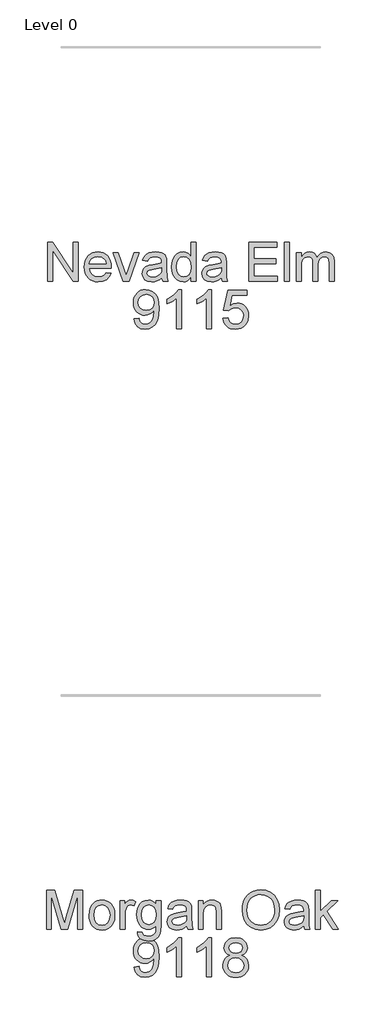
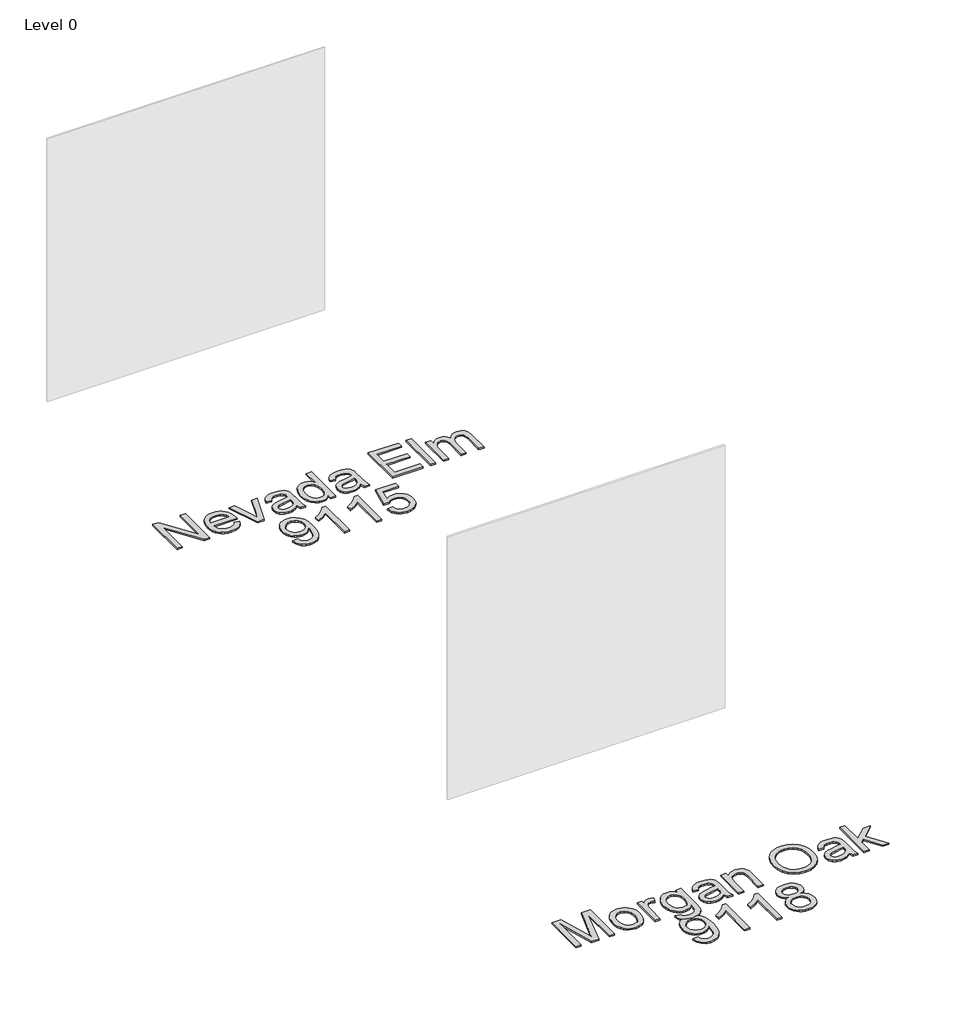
# One storey, part 2 of 10: 2 proxies.
"""IFC4 building model written with IfcOpenShell, lengths in millimetres."""

from ifc_helpers import new_model, si_unit, origin, origin_with_axes, place, context, project, spatial, polyline, outline, extrude, element, save

model = new_model("IFC4")

# Units and contexts
model_context = context("Model", 3, world=origin())
ifc_project = project(units=[si_unit("LENGTHUNIT", "METRE", prefix="MILLI")], contexts=[model_context])

# Site, building, storey
site = spatial("IfcSite", under=ifc_project)
building = spatial("IfcBuilding", under=site)
storey = spatial("IfcBuildingStorey", under=building, Name="Level 0", Elevation=0.0)

# Proxies
placement = place(None, origin())
element("IfcBuildingElementProxy", 1, Name="300mm Arial", ObjectType="300mm Arial", at=placement, inside=storey, context=model_context, shape_type="SweptSolid", body=[
    extrude(outline(polyline([(-5554.892653, -17002.860494), (-5554.892653, -16701.4915635), (-5514.5727864, -16701.4915635), (-5357.1192924, -16940.2469784), (-5357.1192924, -16701.4915635), (-5319.4481761, -16701.4915635), (-5319.4481761, -17002.860494), (-5359.7680428, -17002.860494), (-5517.2215367, -16764.0315027), (-5517.2215367, -17002.860494), (-5554.892653, -17002.860494)])), origin_with_axes(), (0.0, 0.0, 1.0), 10.0),
    extrude(outline(polyline([(-5103.2807158, -16936.9360404), (-5066.3453634, -16941.64493), (-5079.6534946, -16969.4752029), (-5100.8894828, -16990.2789297), (-5129.5750814, -17003.2467701), (-5165.2320437, -17007.5693835), (-5188.606346, -17005.7046817), (-5209.4330655, -17000.1105761), (-5227.7122021, -16990.7870668), (-5243.4437559, -16977.7341537), (-5256.094298, -16961.3151204), (-5265.1303995, -16941.8932503), (-5270.5520604, -16919.4685435), (-5272.3592807, -16894.0409998), (-5270.5336663, -16867.7512327), (-5265.0568231, -16844.5792656), (-5255.9287511, -16824.5250983), (-5243.1494503, -16807.5887309), (-5227.4592832, -16794.133447), (-5209.5986124, -16784.5225298), (-5189.5674377, -16778.7559796), (-5167.3657593, -16776.8337961), (-5145.8791515, -16778.751381), (-5126.4480844, -16784.5041357), (-5109.0725579, -16794.0920602), (-5093.7525721, -16807.5151545), (-5081.2468835, -16824.4147337), (-5072.3142488, -16844.4321128), (-5066.954668, -16867.5672917), (-5065.1681411, -16893.8202706), (-5065.3888702, -16903.9738137), (-5234.6881644, -16903.9738137), (-5228.1674561, -16932.1719686), (-5213.0199149, -16952.902119), (-5191.1585273, -16965.6492302), (-5164.4962797, -16969.8982672), (-5144.446711, -16967.9300985), (-5127.5609274, -16962.0255925), (-5113.838929, -16951.8168672), (-5103.2807158, -16936.9360404)]), holes=[polyline([(-5234.6881644, -16866.3026974), (-5102.8392574, -16866.3026974), (-5107.934423, -16846.4002814), (-5117.9224192, -16832.1632482), (-5139.8849743, -16818.9194964), (-5167.5129121, -16814.5049125), (-5192.9059668, -16818.0273826), (-5213.9028317, -16828.5947929), (-5228.4985499, -16845.0667092), (-5234.6881644, -16866.3026974)])]), origin_with_axes(), (0.0, 0.0, 1.0), 10.0),
    extrude(outline(polyline([(-4973.1976423, -17002.860494), (-5051.0414724, -16781.5426857), (-5011.1630642, -16781.5426857), (-4964.0005924, -16914.1273567), (-4949.8003474, -16958.7146546), (-4935.8944079, -16916.6289543), (-4888.4376306, -16781.5426857), (-4848.5592223, -16781.5426857), (-4925.4465593, -17002.860494), (-4973.1976423, -17002.860494)])), origin_with_axes(), (0.0, 0.0, 1.0), 10.0),
    extrude(outline(polyline([(-4674.3303094, -16974.6071568), (-4692.328936, -16990.0398064), (-4710.8609915, -17000.1381672), (-4730.3495402, -17005.7115794), (-4751.2176464, -17007.5693835), (-4782.6991481, -17003.0996173), (-4805.921699, -16989.6903186), (-4820.2415057, -16969.3280501), (-4825.0147746, -16943.9993748), (-4823.2121528, -16928.3827841), (-4817.8042875, -16914.2009331), (-4809.4625633, -16902.0608273), (-4798.8583647, -16892.5694718), (-4772.4812257, -16880.2086368), (-4739.8868809, -16874.5432541), (-4701.369636, -16868.5835657), (-4674.5510386, -16861.5938078), (-4674.3303094, -16853.2060983), (-4676.9238774, -16836.3938912), (-4684.7045816, -16825.3942195), (-4702.1054, -16817.2272392), (-4726.3488235, -16814.5049125), (-4748.7896252, -16816.3167313), (-4764.4613982, -16821.7521878), (-4775.1483702, -16831.8045633), (-4782.6347688, -16847.4671392), (-4820.3058851, -16842.7582497), (-4813.7667826, -16822.156858), (-4804.0087127, -16805.9700502), (-4790.1211674, -16793.590821), (-4771.1936387, -16784.4121652), (-4748.0446642, -16778.7283884), (-4721.4927812, -16776.8337961), (-4696.02615, -16778.5076592), (-4675.8386256, -16783.5292485), (-4660.617508, -16791.0800264), (-4650.0500977, -16800.3414556), (-4643.0419457, -16811.7917827), (-4638.498603, -16825.9092543), (-4636.6591931, -16858.8714811), (-4636.6591931, -16905.7396473), (-4634.7462067, -16971.1858542), (-4627.241414, -17002.860494), (-4664.9125303, -17002.860494), (-4674.3303094, -16974.6071568)]), holes=[polyline([(-4674.3303094, -16899.2649241), (-4735.104415, -16910.8164188), (-4767.5148188, -16916.9232599), (-4782.1933104, -16926.8560738), (-4787.3436583, -16941.3506244), (-4784.5385581, -16952.5526311), (-4776.1232574, -16961.7312869), (-4762.2816974, -16967.8565221), (-4743.1978189, -16969.8982672), (-4722.9643091, -16967.64499), (-4705.0852442, -16960.8851583), (-4690.5906936, -16950.9247533), (-4680.5107269, -16939.069756), (-4676.0409607, -16926.8560738), (-4674.5510386, -16909.933502), (-4674.3303094, -16899.2649241)])]), origin_with_axes(), (0.0, 0.0, 1.0), 10.0),
    extrude(outline(polyline([(-4448.3036115, -17002.860494), (-4448.3036115, -16967.3230932), (-4459.5745962, -16984.9308452), (-4473.2276167, -16997.507811), (-4489.2626732, -17005.0539904), (-4507.6797656, -17007.5693835), (-4532.0335536, -17003.9273518), (-4554.3272025, -16993.0012565), (-4573.1995489, -16975.5544529), (-4587.2894293, -16952.350296), (-4596.0634149, -16924.3268851), (-4598.9880768, -16892.422319), (-4596.2933411, -16860.9132261), (-4588.2091343, -16832.4575538), (-4574.7446533, -16808.6739828), (-4555.9090951, -16791.181194), (-4533.1280026, -16780.4206456), (-4507.8269184, -16776.8337961), (-4489.3960304, -16779.3997731), (-4473.098858, -16787.0977038), (-4459.2848891, -16798.8975188), (-4448.3036115, -16813.7691485), (-4448.3036115, -16701.4915635), (-4410.6324952, -16701.4915635), (-4410.6324952, -17002.860494), (-4448.3036115, -17002.860494)]), holes=[polyline([(-4561.3169605, -16892.2751662), (-4557.0679234, -16926.350236), (-4544.3208123, -16950.5844625), (-4525.7979538, -16965.069816), (-4504.2216748, -16969.8982672), (-4482.6545928, -16965.2905452), (-4464.6007839, -16951.4673793), (-4452.3779046, -16928.1712519), (-4448.3036115, -16895.1446458), (-4452.451481, -16859.037028), (-4464.8950895, -16834.0026582), (-4483.4087509, -16819.3793489), (-4505.7667792, -16814.5049125), (-4527.5637874, -16819.1862108), (-4545.4244583, -16833.230106), (-4557.3438349, -16857.3539678), (-4561.3169605, -16892.2751662)])]), origin_with_axes(), (0.0, 0.0, 1.0), 10.0),
    extrude(outline(polyline([(-4212.8591346, -16974.6071568), (-4230.8577612, -16990.0398064), (-4249.3898167, -17000.1381672), (-4268.8783654, -17005.7115794), (-4289.7464716, -17007.5693835), (-4321.2279734, -17003.0996173), (-4344.4505243, -16989.6903186), (-4358.770331, -16969.3280501), (-4363.5435998, -16943.9993748), (-4361.7409781, -16928.3827841), (-4356.3331127, -16914.2009331), (-4347.9913885, -16902.0608273), (-4337.38719, -16892.5694718), (-4311.0100509, -16880.2086368), (-4278.4157062, -16874.5432541), (-4239.8984613, -16868.5835657), (-4213.0798638, -16861.5938078), (-4212.8591346, -16853.2060983), (-4215.4527027, -16836.3938912), (-4223.2334069, -16825.3942195), (-4240.6342253, -16817.2272392), (-4264.8776487, -16814.5049125), (-4287.3184504, -16816.3167313), (-4302.9902234, -16821.7521878), (-4313.6771954, -16831.8045633), (-4321.163594, -16847.4671392), (-4358.8347103, -16842.7582497), (-4352.2956078, -16822.156858), (-4342.5375379, -16805.9700502), (-4328.6499926, -16793.590821), (-4309.722464, -16784.4121652), (-4286.5734894, -16778.7283884), (-4260.0216064, -16776.8337961), (-4234.5549753, -16778.5076592), (-4214.3674508, -16783.5292485), (-4199.1463333, -16791.0800264), (-4188.5789229, -16800.3414556), (-4181.5707709, -16811.7917827), (-4177.0274283, -16825.9092543), (-4175.1880183, -16858.8714811), (-4175.1880183, -16905.7396473), (-4173.2750319, -16971.1858542), (-4165.7702392, -17002.860494), (-4203.4413555, -17002.860494), (-4212.8591346, -16974.6071568)]), holes=[polyline([(-4212.8591346, -16899.2649241), (-4273.6332402, -16910.8164188), (-4306.043644, -16916.9232599), (-4320.7221356, -16926.8560738), (-4325.8724835, -16941.3506244), (-4323.0673833, -16952.5526311), (-4314.6520827, -16961.7312869), (-4300.8105226, -16967.8565221), (-4281.7266441, -16969.8982672), (-4261.4931344, -16967.64499), (-4243.6140694, -16960.8851583), (-4229.1195188, -16950.9247533), (-4219.0395521, -16939.069756), (-4214.5697859, -16926.8560738), (-4213.0798638, -16909.933502), (-4212.8591346, -16899.2649241)])]), origin_with_axes(), (0.0, 0.0, 1.0), 10.0),
    extrude(outline(polyline([(-4000.9591054, -17002.860494), (-4000.9591054, -16701.4915635), (-3784.3501866, -16701.4915635), (-3784.3501866, -16739.1626798), (-3963.2879891, -16739.1626798), (-3963.2879891, -16828.6315811), (-3793.7679657, -16828.6315811), (-3793.7679657, -16866.3026974), (-3963.2879891, -16866.3026974), (-3963.2879891, -16965.1893777), (-3779.6412971, -16965.1893777), (-3779.6412971, -17002.860494), (-4000.9591054, -17002.860494)])), origin_with_axes(), (0.0, 0.0, 1.0), 10.0),
    extrude(outline(polyline([(-3727.8435122, -17002.860494), (-3727.8435122, -16701.4915635), (-3690.1723959, -16701.4915635), (-3690.1723959, -17002.860494), (-3727.8435122, -17002.860494)])), origin_with_axes(), (0.0, 0.0, 1.0), 10.0),
    extrude(outline(polyline([(-3633.6657214, -17002.860494), (-3633.6657214, -16781.5426857), (-3595.9946051, -16781.5426857), (-3595.9946051, -16817.9630032), (-3584.6638397, -16801.2335695), (-3570.0957127, -16788.1277734), (-3552.7868648, -16779.6572905), (-3533.2339367, -16776.8337961), (-3512.2830571, -16779.7124728), (-3495.489244, -16788.3485026), (-3482.944468, -16802.1716686), (-3474.7406995, -16820.6117536), (-3461.009504, -16801.4588972), (-3445.3469281, -16787.7782855), (-3427.7529717, -16779.5699185), (-3408.2276348, -16776.8337961), (-3379.9099182, -16781.3863358), (-3358.9682356, -16795.0439549), (-3346.0279864, -16818.1745354), (-3341.71457, -16851.1459592), (-3341.71457, -17002.860494), (-3379.3856864, -17002.860494), (-3379.3856864, -16867.332767), (-3382.8805653, -16835.8788564), (-3387.7917899, -16827.2060383), (-3395.5357059, -16820.3910244), (-3405.496111, -16815.9764404), (-3417.0568027, -16814.5049125), (-3437.4650563, -16818.2757029), (-3454.1025196, -16829.5880743), (-3465.1665706, -16849.2145787), (-3468.8545876, -16877.9277684), (-3468.8545876, -17002.860494), (-3506.5257039, -17002.860494), (-3506.5257039, -16863.1389122), (-3508.7054047, -16841.8385447), (-3515.2445072, -16826.6450183), (-3526.7500166, -16817.5399389), (-3543.8289382, -16814.5049125), (-3558.3418829, -16816.5282634), (-3571.7143934, -16822.5983163), (-3582.7508533, -16832.5679184), (-3590.255646, -16846.2899168), (-3594.5598653, -16865.3278101), (-3595.9946051, -16891.2450966), (-3595.9946051, -17002.860494), (-3633.6657214, -17002.860494)])), origin_with_axes(), (0.0, 0.0, 1.0), 10.0),
    extrude(outline(polyline([(-4888.5847834, -17293.4427149), (-4850.9136671, -17288.7338254), (-4844.4757321, -17310.1169663), (-4833.9910953, -17324.6758963), (-4819.7172739, -17333.0360146), (-4801.9117853, -17335.8227207), (-4785.9365097, -17334.029296), (-4771.4143679, -17328.6490218), (-4759.3478385, -17320.2705094), (-4750.7393998, -17309.4823699), (-4738.4153529, -17276.7408723), (-4732.9706994, -17233.0364913), (-4733.1914286, -17225.6788514), (-4746.2420424, -17241.6081418), (-4763.320964, -17254.2264942), (-4783.1957888, -17262.4486568), (-4804.6341121, -17265.1893777), (-4822.5292719, -17263.5155146), (-4838.9850934, -17258.4939254), (-4854.0015766, -17250.12461), (-4867.5787214, -17238.4075684), (-4878.8290127, -17223.9544045), (-4886.864935, -17207.3767221), (-4891.6864884, -17188.6745212), (-4893.2936729, -17167.8478018), (-4891.6083135, -17146.326705), (-4886.5522353, -17127.0129003), (-4878.1254384, -17109.9063875), (-4866.3279227, -17095.0071667), (-4851.9920212, -17082.9360387), (-4835.9500669, -17074.3138045), (-4818.2020599, -17069.1404639), (-4798.7480001, -17067.4160171), (-4770.6510128, -17071.3523544), (-4745.074017, -17083.1613665), (-4723.681679, -17102.254442), (-4708.1386647, -17128.0429699), (-4698.6749004, -17163.6907352), (-4695.5203123, -17212.3615232), (-4698.6657034, -17263.96617), (-4708.1018765, -17303.8537754), (-4723.7460584, -17333.8269609), (-4745.5154754, -17355.6883485), (-4772.4720286, -17369.0424649), (-4803.6776189, -17373.4938371), (-4835.8856876, -17368.2423216), (-4861.5822449, -17352.4877751), (-4879.5532804, -17327.2234791), (-4888.5847834, -17293.4427149)]), holes=[polyline([(-4733.1914286, -17166.964885), (-4737.2565246, -17141.4338745), (-4749.4518128, -17121.788976), (-4768.3793414, -17109.262594), (-4792.641159, -17105.0871334), (-4817.8042875, -17109.5844908), (-4837.9642208, -17123.0765629), (-4851.2079727, -17143.7239399), (-4855.6225566, -17169.6872117), (-4851.447096, -17192.964945), (-4838.920714, -17211.4418182), (-4819.2574214, -17223.4991506), (-4793.6712286, -17227.5182614), (-4769.6025491, -17223.4991506), (-4750.224365, -17211.4418182), (-4737.4496627, -17192.2843633), (-4733.1914286, -17166.964885)])]), origin_with_axes(), (0.0, 0.0, 1.0), 10.0),
    extrude(outline(polyline([(-4521.2913994, -17368.7849475), (-4558.9625157, -17368.7849475), (-4558.9625157, -17133.9290818), (-4594.6470692, -17159.3497277), (-4634.3047483, -17178.3692268), (-4634.3047483, -17142.7582497), (-4604.7178388, -17126.6634124), (-4579.0856608, -17107.5151545), (-4558.8797422, -17087.1528861), (-4545.5716111, -17067.4160171), (-4521.2913994, -17067.4160171), (-4521.2913994, -17368.7849475)])), origin_with_axes(), (0.0, 0.0, 1.0), 10.0),
    extrude(outline(polyline([(-4290.555812, -17368.7849475), (-4328.2269283, -17368.7849475), (-4328.2269283, -17133.9290818), (-4363.9114818, -17159.3497277), (-4403.5691609, -17178.3692268), (-4403.5691609, -17142.7582497), (-4373.9822515, -17126.6634124), (-4348.3500734, -17107.5151545), (-4328.1441549, -17087.1528861), (-4314.8360237, -17067.4160171), (-4290.555812, -17067.4160171), (-4290.555812, -17368.7849475)])), origin_with_axes(), (0.0, 0.0, 1.0), 10.0),
    extrude(outline(polyline([(-4201.0869108, -17288.7338254), (-4163.4157945, -17284.0249358), (-4156.499613, -17306.6404815), (-4144.4330835, -17322.8364863), (-4127.2713884, -17332.5761621), (-4105.06971, -17335.8227207), (-4078.0671716, -17331.3069693), (-4057.8336619, -17317.7597148), (-4045.1969153, -17296.7444558), (-4040.9846665, -17269.8246908), (-4044.9302009, -17244.4776213), (-4056.7668041, -17225.0902402), (-4076.5864466, -17212.7845875), (-4104.4810988, -17208.6827032), (-4122.755637, -17210.3197781), (-4137.5536902, -17215.2310027), (-4158.7069049, -17232.2271509), (-4196.3780212, -17227.5182614), (-4163.4157945, -17072.1249066), (-4017.4402188, -17072.1249066), (-4017.4402188, -17109.7960229), (-4132.9551653, -17109.7960229), (-4149.0683967, -17192.790201), (-4122.1578287, -17176.4562404), (-4093.9596738, -17171.0115869), (-4075.6138585, -17172.6992456), (-4058.7625639, -17177.7622215), (-4043.4057899, -17186.2005148), (-4029.5435364, -17198.0141254), (-4018.0679174, -17212.4810848), (-4009.8710467, -17228.8794248), (-4004.9529243, -17247.2091452), (-4003.3135502, -17267.470246), (-4009.2180562, -17305.1413624), (-4016.5986887, -17321.9351754), (-4026.9315743, -17337.3678251), (-4042.5849532, -17353.1729553), (-4060.8502942, -17364.4623341), (-4081.7275974, -17371.2359613), (-4105.2168628, -17373.4938371), (-4142.2165945, -17367.6904986), (-4157.8952653, -17360.4363255), (-4171.6931394, -17350.2804832), (-4183.1733569, -17337.7288093), (-4191.8990579, -17323.2871418), (-4201.0869108, -17288.7338254)])), origin_with_axes(), (0.0, 0.0, 1.0), 10.0),
])
element("IfcBuildingElementProxy", 2, Name="300mm Arial", ObjectType="300mm Arial", at=placement, inside=storey, context=model_context, shape_type="SweptSolid", body=[
    extrude(outline(polyline([(-5564.3104321, -22002.860494), (-5564.3104321, -21701.4915635), (-5499.4896246, -21701.4915635), (-5437.8326022, -21913.9066275), (-5425.3981907, -21958.2731962), (-5411.9337097, -21910.2278076), (-5351.3067569, -21701.4915635), (-5286.4859493, -21701.4915635), (-5286.4859493, -22002.860494), (-5324.1570657, -22002.860494), (-5324.1570657, -21739.1626798), (-5399.8671803, -22002.860494), (-5450.9292012, -22002.860494), (-5526.6393158, -21739.1626798), (-5526.6393158, -22002.860494), (-5564.3104321, -22002.860494)])), origin_with_axes(), (0.0, 0.0, 1.0), 10.0),
    extrude(outline(polyline([(-5234.6881644, -21892.2015898), (-5232.6510179, -21863.5389839), (-5226.5395782, -21838.8403064), (-5216.3538455, -21818.1055575), (-5202.0938197, -21801.334737), (-5187.7372248, -21790.6155754), (-5171.8907079, -21782.9590314), (-5154.5542688, -21778.3651049), (-5135.7279077, -21776.8337961), (-5114.9448743, -21778.698498), (-5096.1530021, -21784.2926036), (-5079.3522912, -21793.6161129), (-5064.5427417, -21806.669026), (-5052.4555189, -21823.0098843), (-5043.8217883, -21842.1972296), (-5038.6415499, -21864.2310619), (-5036.9148038, -21889.1113811), (-5039.9682244, -21927.1687735), (-5049.1284861, -21956.1394806), (-5064.1288744, -21977.8353213), (-5084.702675, -21994.0681143), (-5109.1392365, -22004.1940662), (-5135.7279077, -22007.5693835), (-5156.8144438, -22005.7115794), (-5175.78106, -22000.1381672), (-5192.6277561, -21990.8491468), (-5207.3545322, -21977.8445183), (-5219.3129963, -21961.3450108), (-5227.8547564, -21941.5713536), (-5232.9798124, -21918.5235466), (-5234.6881644, -21892.2015898)]), holes=[polyline([(-5197.0170481, -21892.1280134), (-5192.6576465, -21926.2214773), (-5179.5794416, -21950.5108861), (-5159.8977548, -21965.0514219), (-5135.7279077, -21969.8982672), (-5111.6684252, -21965.0238308), (-5092.0235267, -21950.4005215), (-5078.9453218, -21925.789216), (-5074.5859201, -21890.950791), (-5078.9729129, -21857.8506085), (-5092.1338913, -21833.8922936), (-5111.806381, -21819.3517577), (-5135.7279077, -21814.5049125), (-5159.8977548, -21819.3333636), (-5179.5794416, -21833.8187172), (-5192.6576465, -21858.0529436), (-5197.0170481, -21892.1280134)])]), origin_with_axes(), (0.0, 0.0, 1.0), 10.0),
    extrude(outline(polyline([(-4994.534798, -22002.860494), (-4994.534798, -21781.5426857), (-4961.5725712, -21781.5426857), (-4961.5725712, -21814.2841833), (-4949.3956772, -21795.3014723), (-4938.1752763, -21784.1178596), (-4926.9180873, -21778.654812), (-4914.6308286, -21776.8337961), (-4895.8688469, -21779.7400639), (-4876.8125595, -21788.4588672), (-4889.3941238, -21822.2304343), (-4902.6378756, -21816.4362929), (-4915.8816274, -21814.5049125), (-4927.1296194, -21816.3627165), (-4937.1819949, -21821.9361288), (-4945.30299, -21830.8020848), (-4950.7568406, -21842.5375205), (-4955.3369714, -21863.5803706), (-4956.8636817, -21886.5362071), (-4956.8636817, -22002.860494), (-4994.534798, -22002.860494)])), origin_with_axes(), (0.0, 0.0, 1.0), 10.0),
    extrude(outline(polyline([(-4862.6858909, -22021.6960521), (-4825.0147746, -22026.4049417), (-4820.8577081, -22038.1771655), (-4812.8010924, -22046.2705694), (-4796.9637725, -22052.5613515), (-4776.233622, -22054.6582789), (-4754.1239141, -22052.28544), (-4737.6795889, -22045.1669234), (-4726.2752471, -22033.7625816), (-4719.2854892, -22018.532267), (-4716.7103152, -21974.6071568), (-4729.2458942, -21986.9679918), (-4743.2346071, -21995.7971597), (-4758.6764538, -22001.0946604), (-4775.5714344, -22002.860494), (-4796.2257092, -22000.8049533), (-4814.4105761, -21994.6383314), (-4830.1260351, -21984.3606281), (-4843.3720862, -21969.9718436), (-4853.8820149, -21952.708981), (-4861.3891069, -21933.8090435), (-4865.8933621, -21913.2720311), (-4867.3947804, -21891.0979438), (-4864.7000448, -21860.6832999), (-4856.615838, -21832.7150712), (-4843.4272685, -21809.0142737), (-4825.4194448, -21791.4019232), (-4803.2085693, -21780.4758279), (-4777.4108444, -21776.8337961), (-4759.7938954, -21778.8939353), (-4743.8048242, -21785.0743528), (-4729.4436308, -21795.3750487), (-4716.7103152, -21809.7960229), (-4716.7103152, -21781.5426857), (-4679.0391989, -21781.5426857), (-4679.0391989, -21972.620594), (-4681.6143729, -22016.7388422), (-4689.3398948, -22045.7923228), (-4702.648026, -22065.0601423), (-4721.9710278, -22079.8214074), (-4746.8858359, -22089.2023982), (-4776.969386, -22092.3293952), (-4812.0193431, -22087.9240083), (-4839.6196898, -22074.7078476), (-4850.0146554, -22064.7865301), (-4857.3240108, -22052.644125), (-4861.547756, -22038.2806323), (-4862.6858909, -22021.6960521)]), holes=[polyline([(-4829.7236641, -21888.5227699), (-4825.7045533, -21923.0760863), (-4813.6472209, -21946.8320661), (-4795.5198356, -21960.6000498), (-4773.2905661, -21965.1893777), (-4751.2268434, -21960.6276409), (-4733.0074876, -21946.9424307), (-4720.7846083, -21923.4899535), (-4716.7103152, -21889.6264159), (-4720.90417, -21856.9676917), (-4733.4857342, -21833.4508352), (-4751.9718045, -21819.2413931), (-4773.8791773, -21814.5049125), (-4795.3910769, -21819.1678167), (-4813.4264918, -21833.1565296), (-4825.649371, -21856.3238983), (-4829.7236641, -21888.5227699)])]), origin_with_axes(), (0.0, 0.0, 1.0), 10.0),
    extrude(outline(polyline([(-4481.2658383, -21974.6071568), (-4499.2644649, -21990.0398064), (-4517.7965204, -22000.1381672), (-4537.2850691, -22005.7115794), (-4558.1531753, -22007.5693835), (-4589.634677, -22003.0996173), (-4612.857228, -21989.6903186), (-4627.1770346, -21969.3280501), (-4631.9503035, -21943.9993748), (-4630.1476818, -21928.3827841), (-4624.7398164, -21914.2009331), (-4616.3980922, -21902.0608273), (-4605.7938937, -21892.5694718), (-4579.4167546, -21880.2086368), (-4546.8224098, -21874.5432541), (-4508.305165, -21868.5835657), (-4481.4865675, -21861.5938078), (-4481.2658383, -21853.2060983), (-4483.8594064, -21836.3938912), (-4491.6401106, -21825.3942195), (-4509.0409289, -21817.2272392), (-4533.2843524, -21814.5049125), (-4555.7251541, -21816.3167313), (-4571.3969271, -21821.7521878), (-4582.0838991, -21831.8045633), (-4589.5702977, -21847.4671392), (-4627.241414, -21842.7582497), (-4620.7023115, -21822.156858), (-4610.9442416, -21805.9700502), (-4597.0566963, -21793.590821), (-4578.1291676, -21784.4121652), (-4554.9801931, -21778.7283884), (-4528.4283101, -21776.8337961), (-4502.961679, -21778.5076592), (-4482.7741545, -21783.5292485), (-4467.5530369, -21791.0800264), (-4456.9856266, -21800.3414556), (-4449.9774746, -21811.7917827), (-4445.434132, -21825.9092543), (-4443.594722, -21858.8714811), (-4443.594722, -21905.7396473), (-4441.6817356, -21971.1858542), (-4434.1769429, -22002.860494), (-4471.8480592, -22002.860494), (-4481.2658383, -21974.6071568)]), holes=[polyline([(-4481.2658383, -21899.2649241), (-4542.0399439, -21910.8164188), (-4574.4503477, -21916.9232599), (-4589.1288393, -21926.8560738), (-4594.2791872, -21941.3506244), (-4591.474087, -21952.5526311), (-4583.0587864, -21961.7312869), (-4569.2172263, -21967.8565221), (-4550.1333478, -21969.8982672), (-4529.8998381, -21967.64499), (-4512.0207731, -21960.8851583), (-4497.5262225, -21950.9247533), (-4487.4462558, -21939.069756), (-4482.9764896, -21926.8560738), (-4481.4865675, -21909.933502), (-4481.2658383, -21899.2649241)])]), origin_with_axes(), (0.0, 0.0, 1.0), 10.0),
    extrude(outline(polyline([(-4391.7969371, -22002.860494), (-4391.7969371, -21781.5426857), (-4354.1258208, -21781.5426857), (-4354.1258208, -21812.4447733), (-4341.0384188, -21796.8649708), (-4325.3206606, -21785.7365404), (-4306.972546, -21779.0594822), (-4285.9940753, -21776.8337961), (-4267.4252316, -21778.6272209), (-4250.4198863, -21784.0074951), (-4236.2380354, -21792.303234), (-4226.1396747, -21802.8430532), (-4214.8456974, -21830.5445674), (-4212.8591346, -21866.964885), (-4212.8591346, -22002.860494), (-4250.5302509, -22002.860494), (-4250.5302509, -21872.0416565), (-4254.8712585, -21838.7115477), (-4260.876932, -21828.7879309), (-4270.2119377, -21821.0900002), (-4282.1772996, -21816.1511844), (-4296.0740419, -21814.5049125), (-4318.1377646, -21818.2021265), (-4336.9457316, -21829.2937687), (-4344.4620206, -21838.3482643), (-4349.8307985, -21850.7228949), (-4354.1258208, -21885.4325611), (-4354.1258208, -22002.860494), (-4391.7969371, -22002.860494)])), origin_with_axes(), (0.0, 0.0, 1.0), 10.0),
    extrude(outline(polyline([(-4052.7568903, -21856.1491543), (-4050.2460957, -21820.8002931), (-4042.7137119, -21789.5073309), (-4030.1597388, -21762.2702677), (-4012.5841765, -21739.0891034), (-3991.0400871, -21720.5800406), (-3966.580533, -21707.3592814), (-3939.205514, -21699.4268258), (-3908.9150302, -21696.782674), (-3869.3861098, -21701.7490809), (-3833.9406796, -21716.6483017), (-3804.51012, -21740.4318727), (-3783.0258115, -21772.0513302), (-3769.8924242, -21809.9799639), (-3765.5146285, -21852.6910636), (-3770.1223505, -21895.9723803), (-3783.9455164, -21934.4344429), (-3806.2207713, -21966.1090827), (-3836.1847598, -21989.028131), (-3871.3266874, -22002.9340704), (-3909.1357594, -22007.5693835), (-3949.2716851, -22002.4466267), (-3984.9194504, -21987.0783564), (-4014.2764336, -21962.853327), (-4035.5400129, -21931.1602931), (-4048.452671, -21894.6939903), (-4052.7568903, -21856.1491543)]), holes=[polyline([(-4015.085774, -21856.5170363), (-4013.2026781, -21881.4916252), (-4007.5533902, -21903.661114), (-3998.1379104, -21923.0255025), (-3984.9562386, -21939.5847908), (-3968.9326785, -21952.8469367), (-3950.9915334, -21962.3198981), (-3931.1328035, -21968.0036749), (-3909.3564886, -21969.8982672), (-3887.2076932, -21967.9852808), (-3867.1144385, -21962.2463217), (-3849.0767244, -21952.6813898), (-3833.094551, -21939.2904852), (-3820.0094483, -21922.381709), (-3810.6629463, -21902.2631624), (-3805.0550452, -21878.9348454), (-3803.1857448, -21852.396758), (-3806.3863182, -21819.0482551), (-3815.9880382, -21790.2247008), (-3831.7425847, -21766.6526619), (-3853.4016371, -21749.0587055), (-3879.5304558, -21738.1050191), (-3908.694301, -21734.4537903), (-3929.7141585, -21736.2127261), (-3949.2165028, -21741.4895335), (-3967.2013338, -21750.2842124), (-3983.6686516, -21762.5967629), (-3997.4136427, -21779.0203948), (-4007.2314934, -21800.1483176), (-4013.1222039, -21825.9805314), (-4015.085774, -21856.5170363)])]), origin_with_axes(), (0.0, 0.0, 1.0), 10.0),
    extrude(outline(polyline([(-3577.159047, -21974.6071568), (-3595.1576736, -21990.0398064), (-3613.6897291, -22000.1381672), (-3633.1782778, -22005.7115794), (-3654.046384, -22007.5693835), (-3685.5278857, -22003.0996173), (-3708.7504366, -21989.6903186), (-3723.0702433, -21969.3280501), (-3727.8435122, -21943.9993748), (-3726.0408904, -21928.3827841), (-3720.6330251, -21914.2009331), (-3712.2913008, -21902.0608273), (-3701.6871023, -21892.5694718), (-3675.3099633, -21880.2086368), (-3642.7156185, -21874.5432541), (-3604.1983736, -21868.5835657), (-3577.3797762, -21861.5938078), (-3577.159047, -21853.2060983), (-3579.752615, -21836.3938912), (-3587.5333192, -21825.3942195), (-3604.9341376, -21817.2272392), (-3629.1775611, -21814.5049125), (-3651.6183628, -21816.3167313), (-3667.2901358, -21821.7521878), (-3677.9771077, -21831.8045633), (-3685.4635063, -21847.4671392), (-3723.1346226, -21842.7582497), (-3716.5955202, -21822.156858), (-3706.8374503, -21805.9700502), (-3692.9499049, -21793.590821), (-3674.0223763, -21784.4121652), (-3650.8734017, -21778.7283884), (-3624.3215187, -21776.8337961), (-3598.8548876, -21778.5076592), (-3578.6673631, -21783.5292485), (-3563.4462456, -21791.0800264), (-3552.8788353, -21800.3414556), (-3545.8706833, -21811.7917827), (-3541.3273406, -21825.9092543), (-3539.4879307, -21858.8714811), (-3539.4879307, -21905.7396473), (-3537.5749443, -21971.1858542), (-3530.0701516, -22002.860494), (-3567.7412679, -22002.860494), (-3577.159047, -21974.6071568)]), holes=[polyline([(-3577.159047, -21899.2649241), (-3637.9331526, -21910.8164188), (-3670.3435563, -21916.9232599), (-3685.0220479, -21926.8560738), (-3690.1723959, -21941.3506244), (-3687.3672957, -21952.5526311), (-3678.951995, -21961.7312869), (-3665.110435, -21967.8565221), (-3646.0265565, -21969.8982672), (-3625.7930467, -21967.64499), (-3607.9139818, -21960.8851583), (-3593.4194311, -21950.9247533), (-3583.3394645, -21939.069756), (-3578.8696982, -21926.8560738), (-3577.3797762, -21909.933502), (-3577.159047, -21899.2649241)])]), origin_with_axes(), (0.0, 0.0, 1.0), 10.0),
    extrude(outline(polyline([(-3487.6901457, -22002.860494), (-3487.6901457, -21701.4915635), (-3450.0190294, -21701.4915635), (-3450.0190294, -21863.4332178), (-3365.5533233, -21781.5426857), (-3313.4612328, -21781.5426857), (-3398.9570085, -21864.4632874), (-3308.7523433, -22002.860494), (-3352.7510299, -22002.860494), (-3425.9595469, -21890.6564855), (-3450.0190294, -21913.9802039), (-3450.0190294, -22002.860494), (-3487.6901457, -22002.860494)])), origin_with_axes(), (0.0, 0.0, 1.0), 10.0),
    extrude(outline(polyline([(-4888.5847834, -22293.4427149), (-4850.9136671, -22288.7338254), (-4844.4757321, -22310.1169663), (-4833.9910953, -22324.6758963), (-4819.7172739, -22333.0360146), (-4801.9117853, -22335.8227207), (-4785.9365097, -22334.029296), (-4771.4143679, -22328.6490218), (-4759.3478385, -22320.2705094), (-4750.7393998, -22309.4823699), (-4738.4153529, -22276.7408723), (-4732.9706994, -22233.0364913), (-4733.1914286, -22225.6788514), (-4746.2420424, -22241.6081418), (-4763.320964, -22254.2264942), (-4783.1957888, -22262.4486568), (-4804.6341121, -22265.1893777), (-4822.5292719, -22263.5155146), (-4838.9850934, -22258.4939254), (-4854.0015766, -22250.12461), (-4867.5787214, -22238.4075684), (-4878.8290127, -22223.9544045), (-4886.864935, -22207.3767221), (-4891.6864884, -22188.6745212), (-4893.2936729, -22167.8478018), (-4891.6083135, -22146.326705), (-4886.5522353, -22127.0129003), (-4878.1254384, -22109.9063875), (-4866.3279227, -22095.0071667), (-4851.9920212, -22082.9360387), (-4835.9500669, -22074.3138045), (-4818.2020599, -22069.1404639), (-4798.7480001, -22067.4160171), (-4770.6510128, -22071.3523544), (-4745.074017, -22083.1613665), (-4723.681679, -22102.254442), (-4708.1386647, -22128.0429699), (-4698.6749004, -22163.6907352), (-4695.5203123, -22212.3615232), (-4698.6657034, -22263.96617), (-4708.1018765, -22303.8537754), (-4723.7460584, -22333.8269609), (-4745.5154754, -22355.6883485), (-4772.4720286, -22369.0424649), (-4803.6776189, -22373.4938371), (-4835.8856876, -22368.2423216), (-4861.5822449, -22352.4877751), (-4879.5532804, -22327.2234791), (-4888.5847834, -22293.4427149)]), holes=[polyline([(-4733.1914286, -22166.964885), (-4737.2565246, -22141.4338745), (-4749.4518128, -22121.788976), (-4768.3793414, -22109.262594), (-4792.641159, -22105.0871334), (-4817.8042875, -22109.5844908), (-4837.9642208, -22123.0765629), (-4851.2079727, -22143.7239399), (-4855.6225566, -22169.6872117), (-4851.447096, -22192.964945), (-4838.920714, -22211.4418182), (-4819.2574214, -22223.4991506), (-4793.6712286, -22227.5182614), (-4769.6025491, -22223.4991506), (-4750.224365, -22211.4418182), (-4737.4496627, -22192.2843633), (-4733.1914286, -22166.964885)])]), origin_with_axes(), (0.0, 0.0, 1.0), 10.0),
    extrude(outline(polyline([(-4521.2913994, -22368.7849475), (-4558.9625157, -22368.7849475), (-4558.9625157, -22133.9290818), (-4594.6470692, -22159.3497277), (-4634.3047483, -22178.3692268), (-4634.3047483, -22142.7582497), (-4604.7178388, -22126.6634124), (-4579.0856608, -22107.5151545), (-4558.8797422, -22087.1528861), (-4545.5716111, -22067.4160171), (-4521.2913994, -22067.4160171), (-4521.2913994, -22368.7849475)])), origin_with_axes(), (0.0, 0.0, 1.0), 10.0),
    extrude(outline(polyline([(-4290.555812, -22368.7849475), (-4328.2269283, -22368.7849475), (-4328.2269283, -22133.9290818), (-4363.9114818, -22159.3497277), (-4403.5691609, -22178.3692268), (-4403.5691609, -22142.7582497), (-4373.9822515, -22126.6634124), (-4348.3500734, -22107.5151545), (-4328.1441549, -22087.1528861), (-4314.8360237, -22067.4160171), (-4290.555812, -22067.4160171), (-4290.555812, -22368.7849475)])), origin_with_axes(), (0.0, 0.0, 1.0), 10.0),
    extrude(outline(polyline([(-4146.1989171, -22202.7965913), (-4166.3680475, -22192.8637774), (-4180.5223072, -22179.3992964), (-4188.8824256, -22162.6790597), (-4191.6691317, -22142.9789789), (-4190.1516185, -22127.6153071), (-4185.5990788, -22113.5300252), (-4178.0115126, -22100.7231332), (-4167.38892, -22089.1946312), (-4154.2417372, -22079.6664875), (-4139.0804005, -22072.8606706), (-4102.7152653, -22067.4160171), (-4066.1294008, -22072.9894293), (-4050.8025172, -22079.9561946), (-4037.4529993, -22089.709666), (-4026.6372687, -22101.4634957), (-4018.9117468, -22114.4313361), (-4014.2764336, -22128.613187), (-4012.7313292, -22144.0090485), (-4015.4812472, -22163.0745329), (-4023.7310009, -22179.509661), (-4037.572561, -22192.8913686), (-4057.0978979, -22202.7965913), (-4033.9121351, -22214.7435591), (-4017.0355486, -22232.3375155), (-4006.7440498, -22254.732332), (-4003.3135502, -22281.0818799), (-4005.0150044, -22299.8714528), (-4010.1193671, -22317.0975272), (-4018.6266382, -22332.7601031), (-4030.5368178, -22346.8591806), (-4045.2245065, -22358.5118428), (-4062.0643048, -22366.8351729), (-4081.0562128, -22371.829171), (-4102.2002305, -22373.4938371), (-4123.3442481, -22371.8222732), (-4142.3361561, -22366.8075818), (-4159.1759545, -22358.4497627), (-4173.8636431, -22346.748816), (-4185.7738227, -22332.5508703), (-4194.2810939, -22316.702054), (-4199.3854566, -22299.2023674), (-4201.0869108, -22280.0518103), (-4197.5184554, -22252.6813898), (-4186.8130894, -22230.1670117), (-4169.5226356, -22213.2812282), (-4146.1989171, -22202.7965913)]), holes=[polyline([(-4153.9980154, -22144.0826249), (-4150.6594863, -22160.52695), (-4140.643899, -22173.6603373), (-4124.245559, -22182.268776), (-4101.7587721, -22185.1382555), (-4079.796217, -22182.2871701), (-4063.6461974, -22173.7339137), (-4053.7133835, -22161.0419848), (-4050.4024456, -22145.774882), (-4053.8237481, -22129.9283651), (-4064.0876558, -22116.822569), (-4080.4584046, -22108.0209923), (-4102.2002305, -22105.0871334), (-4124.0800121, -22107.9566129), (-4140.4231698, -22116.5650516), (-4150.604304, -22129.1834041), (-4153.9980154, -22144.0826249)]), polyline([(-4163.4157945, -22278.7274351), (-4157.1250124, -22307.0911369), (-4148.4154061, -22319.2588339), (-4134.8681516, -22328.317928), (-4118.6445557, -22333.9465226), (-4101.9059249, -22335.8227207), (-4076.2645498, -22331.8771864), (-4057.0243215, -22320.0405832), (-4044.9945802, -22302.1155329), (-4040.9846665, -22279.9046575), (-4045.1233389, -22257.316703), (-4057.5393563, -22238.9961796), (-4077.221043, -22226.8560738), (-4103.1567237, -22222.8093718), (-4128.4394138, -22226.8008915), (-4147.4865041, -22238.7754504), (-4159.4334719, -22256.7464859), (-4163.4157945, -22278.7274351)])]), origin_with_axes(), (0.0, 0.0, 1.0), 10.0),
])

save(model, "model.ifc")
